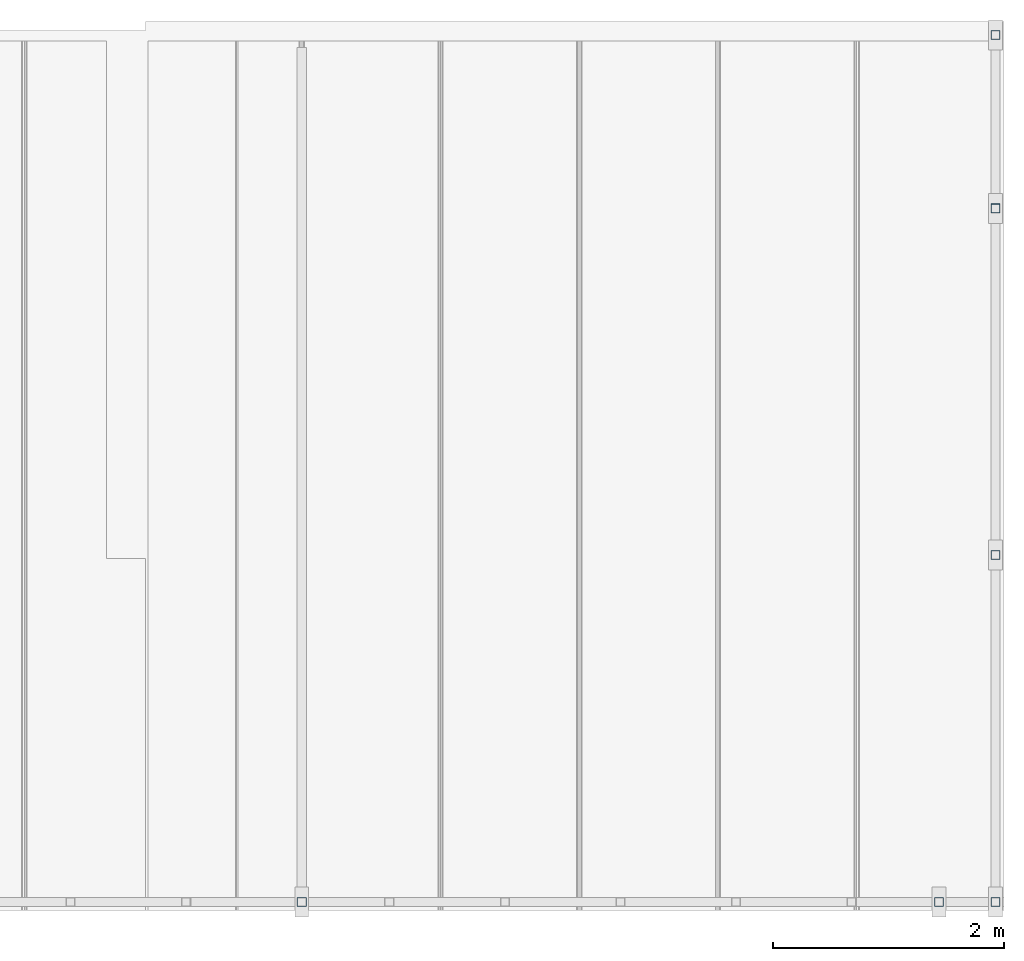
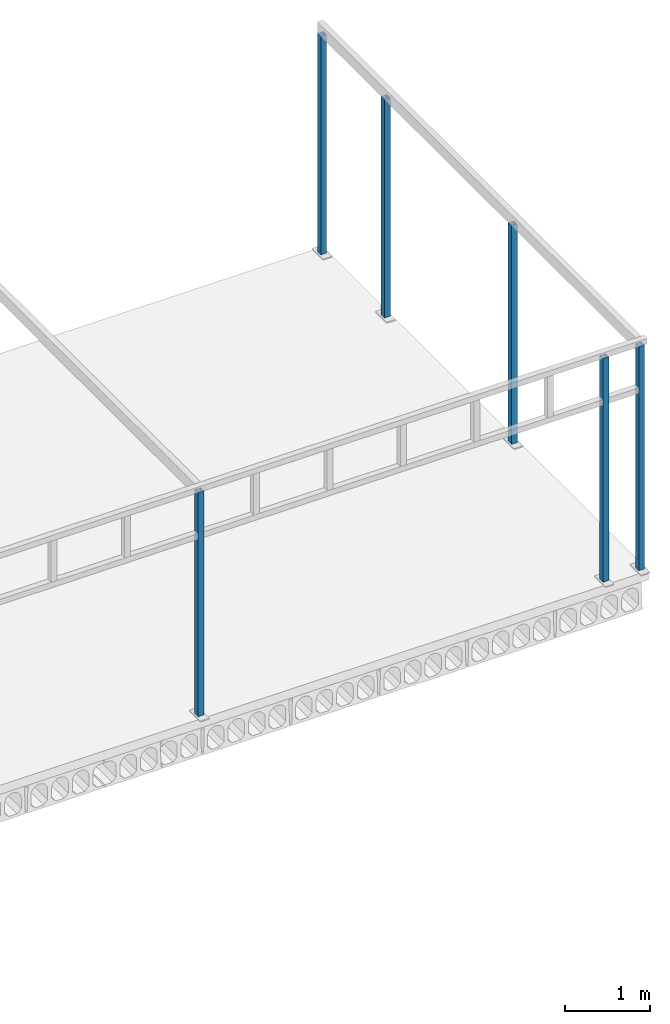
# One storey, part 2 of 20: 6 columns.
"""IFC2X3 building model written with IfcOpenShell, lengths in millimetres."""

from ifc_helpers import new_model, entity, si_unit, converted_unit, derived_unit, direction, frame, origin_with_axes, place, context, subcontext, project, spatial, faceted_brep, material, type_object, element, save


model = new_model("IFC2X3")

# Units and contexts
model_context = context("Model", 3, precision=0.01, world=frame((0.0, 4.29681676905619e-09, 0.0)), true_north=direction((4.01073788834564e-13, 1.0)))
plan_context = context("Plan", 3, precision=0.01, world=frame((0.0, 4.29681676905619e-09, 0.0)), true_north=direction((4.01073788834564e-13, 1.0)))
body_context = subcontext(model_context, "Body", "Model", "MODEL_VIEW")
ifc_project = project(units=[converted_unit("PLANEANGLEUNIT", "DEGREE", entity("IfcPositiveLengthMeasure", 0.0174532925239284), si_unit("PLANEANGLEUNIT", "RADIAN"), dimensions=[0, 0, 0, 0, 0, 0, 0]), si_unit("AREAUNIT", "SQUARE_METRE"), si_unit("LENGTHUNIT", "METRE", prefix="MILLI"), si_unit("MASSUNIT", "GRAM", prefix="KILO"), si_unit("POWERUNIT", "WATT"), si_unit("PRESSUREUNIT", "PASCAL", prefix="KILO"), si_unit("FORCEUNIT", "NEWTON", prefix="KILO"), si_unit("ELECTRICVOLTAGEUNIT", "VOLT"), si_unit("ELECTRICCURRENTUNIT", "AMPERE"), si_unit("THERMODYNAMICTEMPERATUREUNIT", "DEGREE_CELSIUS"), si_unit("TIMEUNIT", "SECOND"), si_unit("VOLUMEUNIT", "CUBIC_METRE"), derived_unit("LINEARVELOCITYUNIT", [(si_unit("LENGTHUNIT", "METRE"), 1), (si_unit("TIMEUNIT", "SECOND"), -1)]), derived_unit("VOLUMETRICFLOWRATEUNIT", [(si_unit("VOLUMEUNIT", "CUBIC_METRE"), 1), (si_unit("TIMEUNIT", "SECOND"), -1)]), derived_unit("THERMALTRANSMITTANCEUNIT", [(si_unit("POWERUNIT", "WATT"), 1), (si_unit("THERMODYNAMICTEMPERATUREUNIT", "KELVIN"), -1), (si_unit("AREAUNIT", "SQUARE_METRE"), -1)]), derived_unit("SOUNDPRESSUREUNIT", [(si_unit("PRESSUREUNIT", "PASCAL"), 1)])], contexts=[model_context, plan_context])

# Site, building, storey
site_placement = place(None, frame((0.0, -4.29681676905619e-09, 0.0), z_axis=(0.0, 0.0, 1.0), x_axis=(1.0, 0.0, 0.0)))
site = spatial("IfcSite", under=ifc_project, at=site_placement, Name="Gardermoen", CompositionType="ELEMENT")
building_placement = place(site_placement, frame((0.0, 4.29681676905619e-09, 0.0), z_axis=(0.0, 0.0, 1.0), x_axis=(1.0, 0.0, 0.0)))
building = spatial("IfcBuilding", under=site, at=building_placement, Name="TS", CompositionType="ELEMENT")
storey_placement = place(building_placement, origin_with_axes())
storey = spatial("IfcBuildingStorey", under=building, at=storey_placement, Name="D", CompositionType="ELEMENT", Elevation=0.0)

# Columns
ifc_material = material(Name="STEEL/S355")
column_type = type_object("IfcColumnType", Name="RHS80*5", PredefinedType="NOTDEFINED")
for number, where, z_axis, x_axis in (
    (1, (612999.994834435, 405309.991078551, 203970.0), (-0.999999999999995, -9.99999902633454e-08, 6.46199937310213e-13), (0.0, 6.46200000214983e-06, 0.999999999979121)),
    (2, (612999.994834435, 403810.991078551, 203970.0), (-0.999999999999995, -9.99999902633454e-08, 6.46199937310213e-13), (0.0, 6.46200000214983e-06, 0.999999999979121)),
    (3, (612999.994834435, 400810.991078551, 203970.0), (-0.999999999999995, -9.99999902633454e-08, 6.46199937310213e-13), (0.0, 6.46200000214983e-06, 0.999999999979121)),
):
    element("IfcColumn", number, at=place(storey_placement, frame(where, z_axis=z_axis, x_axis=x_axis)), inside=storey, type_object=column_type, material=ifc_material, Name="STÅLSØYLE", ObjectType="RHS80*5", context=body_context, shape_type="Brep", body=[
        faceted_brep([(-25.0000153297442, 35.0000000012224, -35.0), (-24.9999846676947, -35.0000000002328, -35.0), (3119.99906413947, -35.0000000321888, -35.0), (3119.9990641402, 34.9999999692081, -35.0), (-24.9999846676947, -35.0000000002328, 35.0), (3119.99906413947, -35.0000000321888, 35.0), (-25.0000153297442, 35.0000000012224, 35.0), (3119.9990641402, 34.9999999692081, 35.0), (-25.0000175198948, 40.0000000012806, -40.0), (-25.0000175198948, 40.0000000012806, 40.0), (3119.99906414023, 39.9999999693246, 40.0), (3119.99906414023, 39.9999999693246, -40.0), (-24.9999824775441, -40.0000000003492, 40.0), (3119.99906413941, -40.0000000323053, 40.0), (-24.9999824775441, -40.0000000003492, -40.0), (3119.99906413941, -40.0000000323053, -40.0)], [[[0, 1, 2, 3]], [[1, 4, 5, 2]], [[4, 6, 7, 5]], [[6, 0, 3, 7]], [[8, 9, 10, 11]], [[9, 12, 13, 10]], [[12, 14, 15, 13]], [[14, 8, 11, 15]], [[13, 15, 11, 10], [5, 7, 3, 2]], [[14, 12, 9, 8], [6, 4, 1, 0]]]),
    ])
column_placement = place(storey_placement, frame((612513.004834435, 397810.991078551, 203970.0), z_axis=(-0.999999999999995, -9.99999902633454e-08, 6.46199937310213e-13), x_axis=(0.0, 6.46200000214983e-06, 0.999999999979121)))
element("IfcColumn", 4, at=column_placement, inside=storey, type_object=column_type, material=ifc_material, Name="STÅLSØYLE", ObjectType="RHS80*5", context=body_context, shape_type="Brep", body=[
    faceted_brep([(-19.999996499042, 35.0000000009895, -35.0), (-20.000003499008, -35.0000000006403, -35.0), (3199.99936012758, -35.0000000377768, -35.0), (3199.99936012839, 34.999999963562, -35.0), (-20.000003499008, -35.0000000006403, 35.0), (3199.99936012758, -35.0000000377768, 35.0), (-19.999996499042, 35.0000000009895, 35.0), (3199.99936012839, 34.999999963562, 35.0), (-19.9999999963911, 39.9999999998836, -39.9999999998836), (-19.9999999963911, 39.9999999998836, 40.0000000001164), (3199.99936012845, 39.9999999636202, 40.0), (3199.99936012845, 39.9999999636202, -40.0), (-20.0000000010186, -40.0000000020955, 39.9999999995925), (3199.99936012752, -40.0000000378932, 40.0), (-20.0000000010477, -40.0000000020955, -40.0000000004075), (3199.99936012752, -40.0000000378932, -40.0)], [[[0, 1, 2, 3]], [[1, 4, 5, 2]], [[4, 6, 7, 5]], [[6, 0, 3, 7]], [[8, 9, 10, 11]], [[9, 12, 13, 10]], [[12, 14, 15, 13]], [[14, 8, 11, 15]], [[13, 15, 11, 10], [5, 7, 3, 2]], [[14, 12, 9, 8], [6, 4, 1, 0]]]),
])
for number, where, z_axis, x_axis in (
    (5, (612999.994834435, 397810.991078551, 203970.0), (-0.999999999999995, -9.99999902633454e-08, 6.46199937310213e-13), (0.0, 6.46200000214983e-06, 0.999999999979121)),
    (6, (606999.994834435, 397810.991078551, 203970.0), (-0.999999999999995, -9.99999902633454e-08, 6.46199937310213e-13), (0.0, 6.46200000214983e-06, 0.999999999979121)),
):
    element("IfcColumn", number, at=place(storey_placement, frame(where, z_axis=z_axis, x_axis=x_axis)), inside=storey, type_object=column_type, material=ifc_material, Name="STÅLSØYLE", ObjectType="RHS80*5", context=body_context, shape_type="Brep", body=[
        faceted_brep([(-25.0000153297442, 35.0000000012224, -35.0), (-24.9999846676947, -35.0000000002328, -35.0), (3199.99968006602, -35.0000000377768, -35.0), (3199.99968006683, 34.999999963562, -35.0), (-24.9999846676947, -35.0000000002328, 35.0), (3199.99968006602, -35.0000000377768, 35.0), (-25.0000153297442, 35.0000000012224, 35.0), (3199.99968006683, 34.999999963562, 35.0), (-25.0000175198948, 40.0000000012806, -40.0), (-25.0000175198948, 40.0000000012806, 40.0), (3199.99968006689, 39.9999999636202, 40.0), (3199.99968006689, 39.9999999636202, -40.0), (-24.9999824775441, -40.0000000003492, 40.0), (3199.99968006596, -40.0000000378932, 40.0), (-24.9999824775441, -40.0000000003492, -40.0), (3199.99968006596, -40.0000000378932, -40.0)], [[[0, 1, 2, 3]], [[1, 4, 5, 2]], [[4, 6, 7, 5]], [[6, 0, 3, 7]], [[8, 9, 10, 11]], [[9, 12, 13, 10]], [[12, 14, 15, 13]], [[14, 8, 11, 15]], [[13, 15, 11, 10], [5, 7, 3, 2]], [[14, 12, 9, 8], [6, 4, 1, 0]]]),
    ])

save(model, "model.ifc")
